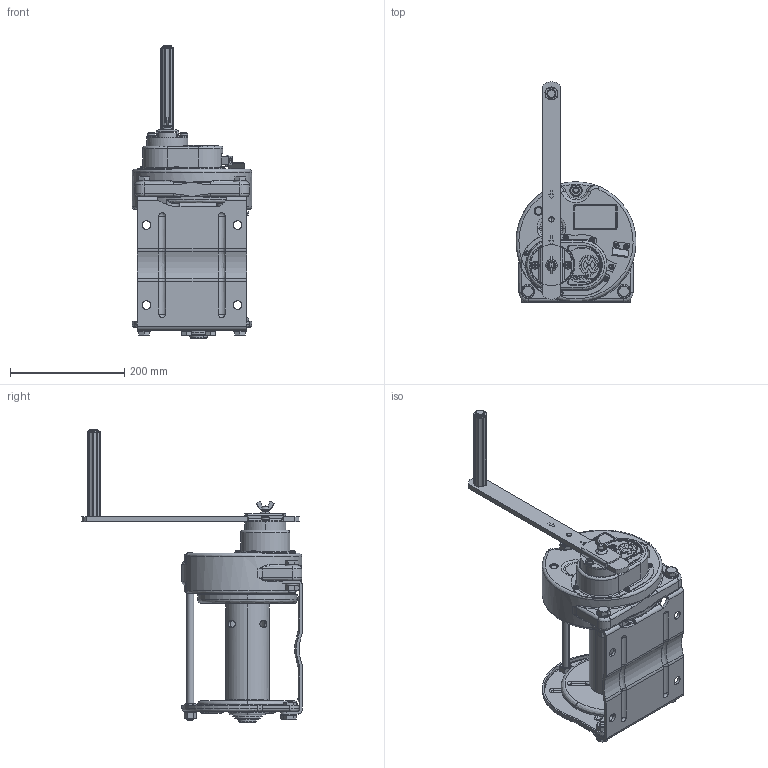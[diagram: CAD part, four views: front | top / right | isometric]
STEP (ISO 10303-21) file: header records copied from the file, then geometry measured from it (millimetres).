
FILE_DESCRIPTION( (''), '2;1');
FILE_NAME ('GM-10-GS.stp','2023-12-22T14:49:27',(''),(''),'spGate 19.8.2 (****-****-****-****)','','');
FILE_SCHEMA (('AUTOMOTIVE_DESIGN'));
Length unit declared in the file: millimetre
Products named in the file (3): Assembly; GM-10-GS-prt0; GM-10-GS-prt1
Assembly tree (2 placements, depth 2):
  Assembly
    GM-10-GS-prt0
    GM-10-GS-prt1
Bounding box: 209.96 x 385.43 x 513.1 mm (x, y, z)
Volume: 3974310.2 mm3; surface area: 690287.1 mm2
Topology: 2 solids, 2 shells, 2616 faces, 6707 edges, 4194 vertices
Faces by surface type: plane 1248, cylinder 845, bspline 459, sphere 64
Entity records: 143147 total; most frequent: CARTESIAN_POINT 27832, ORIENTED_EDGE 13310, DIRECTION 12779, COLOUR_RGB 9273, PRESENTATION_STYLE_ASSIGNMENT 9273, STYLED_ITEM 9273, EDGE_CURVE 6655, DRAUGHTING_PRE_DEFINED_CURVE_FONT 6655
